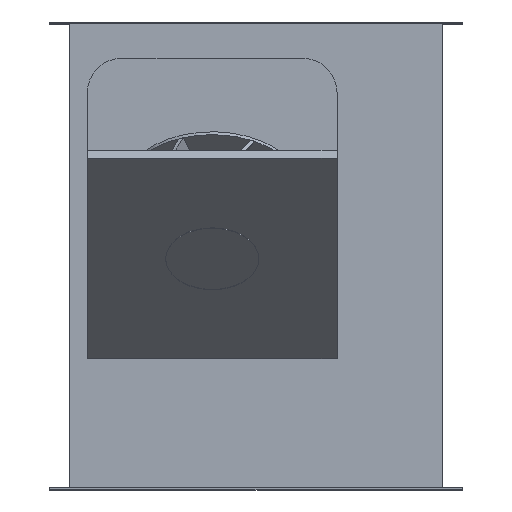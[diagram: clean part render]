
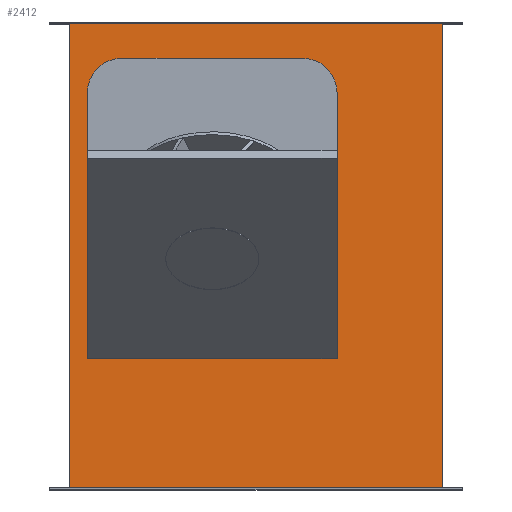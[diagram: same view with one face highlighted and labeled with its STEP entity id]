
A CAD part, top view. The second image highlights one B-rep face of the part: STEP entity #2412.
In plain terms, the highlighted planar face has unit normal (0, 0, 1).
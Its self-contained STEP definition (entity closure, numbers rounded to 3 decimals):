
#225=LINE('',#3328,#428);
#229=LINE('',#3336,#432);
#243=LINE('',#3369,#446);
#329=LINE('',#4258,#532);
#334=LINE('',#4268,#537);
#335=LINE('',#4270,#538);
#337=LINE('',#4272,#540);
#343=LINE('',#4286,#546);
#348=LINE('',#4300,#551);
#349=LINE('',#4303,#552);
#369=LINE('',#4366,#572);
#371=LINE('',#4370,#574);
#386=LINE('',#4419,#589);
#387=LINE('',#4421,#590);
#428=VECTOR('',#2720,10.);
#432=VECTOR('',#2724,10.);
#446=VECTOR('',#2754,10.);
#532=VECTOR('',#3034,10.);
#537=VECTOR('',#3043,10.);
#538=VECTOR('',#3046,10.);
#540=VECTOR('',#3048,10.);
#546=VECTOR('',#3068,10.);
#551=VECTOR('',#3085,10.);
#552=VECTOR('',#3088,10.);
#572=VECTOR('',#3150,10.);
#574=VECTOR('',#3154,10.);
#589=VECTOR('',#3203,10.);
#590=VECTOR('',#3206,10.);
#672=PLANE('',#2615);
#730=FACE_BOUND('',#1035,.T.);
#868=FACE_OUTER_BOUND('',#1034,.T.);
#1034=EDGE_LOOP('',(#2240,#2241,#2242,#2243));
#1035=EDGE_LOOP('',(#2244,#2245,#2246,#2247,#2248,#2249,#2250,#2251,#2252,
#2253,#2254,#2255,#2256,#2257));
#1059=CIRCLE('',#2462,37.);
#1114=CIRCLE('',#2570,37.);
#1115=CIRCLE('',#2572,37.);
#1116=CIRCLE('',#2576,37.);
#1174=VERTEX_POINT('',#3324);
#1176=VERTEX_POINT('',#3327);
#1179=VERTEX_POINT('',#3333);
#1180=VERTEX_POINT('',#3335);
#1190=VERTEX_POINT('',#3365);
#1191=VERTEX_POINT('',#3367);
#1192=VERTEX_POINT('',#3372);
#1279=VERTEX_POINT('',#4252);
#1284=VERTEX_POINT('',#4266);
#1285=VERTEX_POINT('',#4284);
#1286=VERTEX_POINT('',#4290);
#1287=VERTEX_POINT('',#4294);
#1288=VERTEX_POINT('',#4298);
#1289=VERTEX_POINT('',#4302);
#1310=VERTEX_POINT('',#4363);
#1311=VERTEX_POINT('',#4365);
#1312=VERTEX_POINT('',#4369);
#1329=VERTEX_POINT('',#4417);
#1382=EDGE_CURVE('',#1176,#1174,#225,.T.);
#1386=EDGE_CURVE('',#1180,#1179,#229,.T.);
#1403=EDGE_CURVE('',#1191,#1190,#243,.T.);
#1406=EDGE_CURVE('',#1174,#1192,#1059,.T.);
#1568=EDGE_CURVE('',#1279,#1176,#329,.T.);
#1573=EDGE_CURVE('',#1179,#1284,#334,.T.);
#1574=EDGE_CURVE('',#1284,#1191,#335,.T.);
#1576=EDGE_CURVE('',#1190,#1279,#337,.T.);
#1582=EDGE_CURVE('',#1192,#1285,#343,.T.);
#1585=EDGE_CURVE('',#1285,#1286,#1114,.T.);
#1586=EDGE_CURVE('',#1287,#1180,#1115,.T.);
#1589=EDGE_CURVE('',#1286,#1288,#348,.T.);
#1590=EDGE_CURVE('',#1289,#1287,#349,.T.);
#1592=EDGE_CURVE('',#1288,#1289,#1116,.T.);
#1619=EDGE_CURVE('',#1311,#1310,#369,.T.);
#1621=EDGE_CURVE('',#1312,#1311,#371,.T.);
#1644=EDGE_CURVE('',#1329,#1312,#386,.T.);
#1645=EDGE_CURVE('',#1310,#1329,#387,.T.);
#2240=ORIENTED_EDGE('',*,*,#1619,.T.);
#2241=ORIENTED_EDGE('',*,*,#1645,.T.);
#2242=ORIENTED_EDGE('',*,*,#1644,.T.);
#2243=ORIENTED_EDGE('',*,*,#1621,.T.);
#2244=ORIENTED_EDGE('',*,*,#1382,.T.);
#2245=ORIENTED_EDGE('',*,*,#1406,.T.);
#2246=ORIENTED_EDGE('',*,*,#1582,.T.);
#2247=ORIENTED_EDGE('',*,*,#1585,.T.);
#2248=ORIENTED_EDGE('',*,*,#1589,.T.);
#2249=ORIENTED_EDGE('',*,*,#1592,.T.);
#2250=ORIENTED_EDGE('',*,*,#1590,.T.);
#2251=ORIENTED_EDGE('',*,*,#1586,.T.);
#2252=ORIENTED_EDGE('',*,*,#1386,.T.);
#2253=ORIENTED_EDGE('',*,*,#1573,.T.);
#2254=ORIENTED_EDGE('',*,*,#1574,.T.);
#2255=ORIENTED_EDGE('',*,*,#1403,.T.);
#2256=ORIENTED_EDGE('',*,*,#1576,.T.);
#2257=ORIENTED_EDGE('',*,*,#1568,.T.);
#2412=ADVANCED_FACE('',(#868,#730),#672,.T.);
#2462=AXIS2_PLACEMENT_3D('',#3374,#2759,#2760);
#2570=AXIS2_PLACEMENT_3D('',#4292,#3075,#3076);
#2572=AXIS2_PLACEMENT_3D('',#4295,#3079,#3080);
#2576=AXIS2_PLACEMENT_3D('',#4306,#3092,#3093);
#2615=AXIS2_PLACEMENT_3D('',#4422,#3207,#3208);
#2720=DIRECTION('',(1.,0.,0.));
#2724=DIRECTION('',(1.,0.,0.));
#2754=DIRECTION('',(-1.,0.,0.));
#2759=DIRECTION('center_axis',(0.,0.,-1.));
#2760=DIRECTION('ref_axis',(1.,0.,0.));
#3034=DIRECTION('',(0.,1.,0.));
#3043=DIRECTION('',(0.,-1.,0.));
#3046=DIRECTION('',(-1.,0.,0.));
#3048=DIRECTION('',(-1.,0.,0.));
#3068=DIRECTION('',(0.,1.,0.));
#3075=DIRECTION('center_axis',(0.,0.,-1.));
#3076=DIRECTION('ref_axis',(0.,-1.,0.));
#3079=DIRECTION('center_axis',(0.,0.,-1.));
#3080=DIRECTION('ref_axis',(0.,1.,0.));
#3085=DIRECTION('',(1.,0.,0.));
#3088=DIRECTION('',(0.,-1.,0.));
#3092=DIRECTION('center_axis',(0.,0.,-1.));
#3093=DIRECTION('ref_axis',(-1.,0.,0.));
#3150=DIRECTION('',(1.,0.,0.));
#3154=DIRECTION('',(0.,-1.,0.));
#3203=DIRECTION('',(-1.,0.,0.));
#3206=DIRECTION('',(0.,1.,0.));
#3207=DIRECTION('center_axis',(0.,0.,1.));
#3208=DIRECTION('ref_axis',(1.,0.,0.));
#3324=CARTESIAN_POINT('',(-157.783,-100.337,100.));
#3327=CARTESIAN_POINT('',(-181.,-100.337,100.));
#3328=CARTESIAN_POINT('',(-123.5,-100.337,100.));
#3333=CARTESIAN_POINT('',(87.,-100.337,100.));
#3335=CARTESIAN_POINT('',(63.783,-100.337,100.));
#3336=CARTESIAN_POINT('',(-123.5,-100.337,100.));
#3365=CARTESIAN_POINT('',(-144.,-103.,100.));
#3367=CARTESIAN_POINT('',(50.,-103.,100.));
#3369=CARTESIAN_POINT('',(-75.,-103.,100.));
#3372=CARTESIAN_POINT('',(-181.,-66.,100.));
#3374=CARTESIAN_POINT('Origin',(-144.,-66.,100.));
#4252=CARTESIAN_POINT('',(-181.,-103.,100.));
#4258=CARTESIAN_POINT('',(-181.,-51.5,100.));
#4266=CARTESIAN_POINT('',(87.,-103.,100.));
#4268=CARTESIAN_POINT('',(87.,55.801,100.));
#4270=CARTESIAN_POINT('',(-190.5,-103.,100.));
#4272=CARTESIAN_POINT('',(-190.5,-103.,100.));
#4284=CARTESIAN_POINT('',(-181.,175.,100.));
#4286=CARTESIAN_POINT('',(-181.,-33.,100.));
#4290=CARTESIAN_POINT('',(-144.,212.,100.));
#4292=CARTESIAN_POINT('Origin',(-144.,175.,100.));
#4294=CARTESIAN_POINT('',(87.,-66.,100.));
#4295=CARTESIAN_POINT('Origin',(50.,-66.,100.));
#4298=CARTESIAN_POINT('',(50.,212.,100.));
#4300=CARTESIAN_POINT('',(-172.,212.,100.));
#4302=CARTESIAN_POINT('',(87.,175.,100.));
#4303=CARTESIAN_POINT('',(87.,87.5,100.));
#4306=CARTESIAN_POINT('Origin',(50.,175.,100.));
#4363=CARTESIAN_POINT('',(200.,-249.,100.));
#4365=CARTESIAN_POINT('',(-200.,-249.,100.));
#4366=CARTESIAN_POINT('',(-100.,-249.,100.));
#4369=CARTESIAN_POINT('',(-200.,249.,100.));
#4370=CARTESIAN_POINT('',(-200.,0.,100.));
#4417=CARTESIAN_POINT('',(200.,249.,100.));
#4419=CARTESIAN_POINT('',(-100.,249.,100.));
#4421=CARTESIAN_POINT('',(200.,0.,100.));
#4422=CARTESIAN_POINT('Origin',(-200.,0.,100.));
